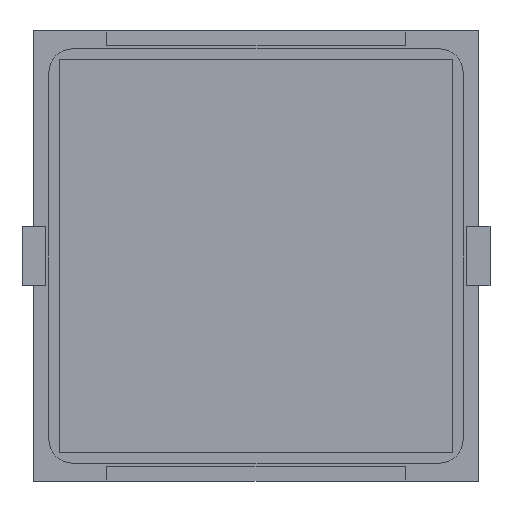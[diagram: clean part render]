
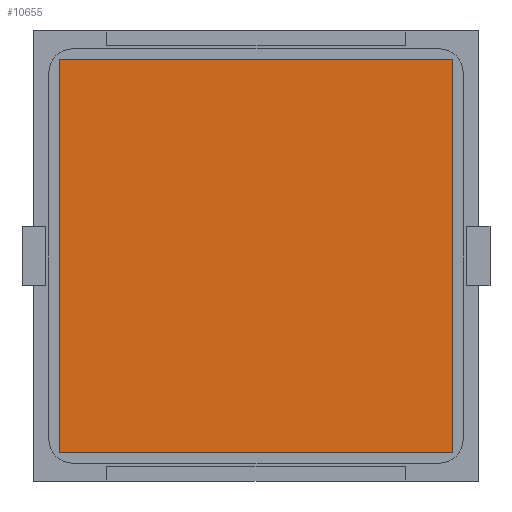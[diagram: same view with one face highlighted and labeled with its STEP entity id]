
A CAD part, front view. The second image highlights one B-rep face of the part: STEP entity #10655.
In plain terms, the highlighted planar face has unit normal (0, -1, 0).
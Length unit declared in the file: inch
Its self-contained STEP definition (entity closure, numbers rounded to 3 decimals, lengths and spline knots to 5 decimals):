
#230 = EDGE_CURVE ( 'NONE', #10253, #5536, #690, .T. ) ;
#410 = EDGE_LOOP ( 'NONE', ( #10705, #4161, #1567, #13160 ) ) ;
#690 = LINE ( 'NONE', #3071, #12103 ) ;
#833 = PLANE ( 'NONE',  #9906 ) ;
#1140 = CARTESIAN_POINT ( 'NONE',  ( 0.64961, -0.005, 0.64961 ) ) ;
#1567 = ORIENTED_EDGE ( 'NONE', *, *, #16063, .T. ) ;
#3071 = CARTESIAN_POINT ( 'NONE',  ( 0.64961, -0.005, -0.64961 ) ) ;
#3100 = VECTOR ( 'NONE', #15027, 39.37008 ) ;
#3966 = LINE ( 'NONE', #4027, #3100 ) ;
#3993 = DIRECTION ( 'NONE',  ( 0., 0., -1. ) ) ;
#4027 = CARTESIAN_POINT ( 'NONE',  ( 0.64961, -0.005, -0.64961 ) ) ;
#4161 = ORIENTED_EDGE ( 'NONE', *, *, #7280, .T. ) ;
#4230 = LINE ( 'NONE', #5566, #8431 ) ;
#5129 = CARTESIAN_POINT ( 'NONE',  ( 0.64961, -0.005, 0.64961 ) ) ;
#5536 = VERTEX_POINT ( 'NONE', #9195 ) ;
#5566 = CARTESIAN_POINT ( 'NONE',  ( -0.64961, -0.005, -0.64961 ) ) ;
#5854 = VERTEX_POINT ( 'NONE', #13706 ) ;
#6064 = DIRECTION ( 'NONE',  ( 0., 0., 1. ) ) ;
#7055 = DIRECTION ( 'NONE',  ( 0., -1., 0. ) ) ;
#7280 = EDGE_CURVE ( 'NONE', #5854, #15785, #10038, .T. ) ;
#8431 = VECTOR ( 'NONE', #3993, 39.37008 ) ;
#8592 = FACE_OUTER_BOUND ( 'NONE', #410, .T. ) ;
#9195 = CARTESIAN_POINT ( 'NONE',  ( 0.64961, -0.005, -0.64961 ) ) ;
#9906 = AXIS2_PLACEMENT_3D ( 'NONE', #1140, #7055, #6064 ) ;
#10038 = LINE ( 'NONE', #5129, #12265 ) ;
#10253 = VERTEX_POINT ( 'NONE', #11796 ) ;
#10655 = ADVANCED_FACE ( 'NONE', ( #8592 ), #833, .T. ) ;
#10705 = ORIENTED_EDGE ( 'NONE', *, *, #13748, .T. ) ;
#10834 = DIRECTION ( 'NONE',  ( 1., 0., 0. ) ) ;
#11796 = CARTESIAN_POINT ( 'NONE',  ( -0.64961, -0.005, -0.64961 ) ) ;
#12103 = VECTOR ( 'NONE', #10834, 39.37008 ) ;
#12265 = VECTOR ( 'NONE', #15059, 39.37008 ) ;
#13160 = ORIENTED_EDGE ( 'NONE', *, *, #230, .T. ) ;
#13706 = CARTESIAN_POINT ( 'NONE',  ( 0.64961, -0.005, 0.64961 ) ) ;
#13748 = EDGE_CURVE ( 'NONE', #5536, #5854, #3966, .T. ) ;
#15027 = DIRECTION ( 'NONE',  ( 0., 0., 1. ) ) ;
#15059 = DIRECTION ( 'NONE',  ( -1., 0., 0. ) ) ;
#15785 = VERTEX_POINT ( 'NONE', #15952 ) ;
#15952 = CARTESIAN_POINT ( 'NONE',  ( -0.64961, -0.005, 0.64961 ) ) ;
#16063 = EDGE_CURVE ( 'NONE', #15785, #10253, #4230, .T. ) ;
